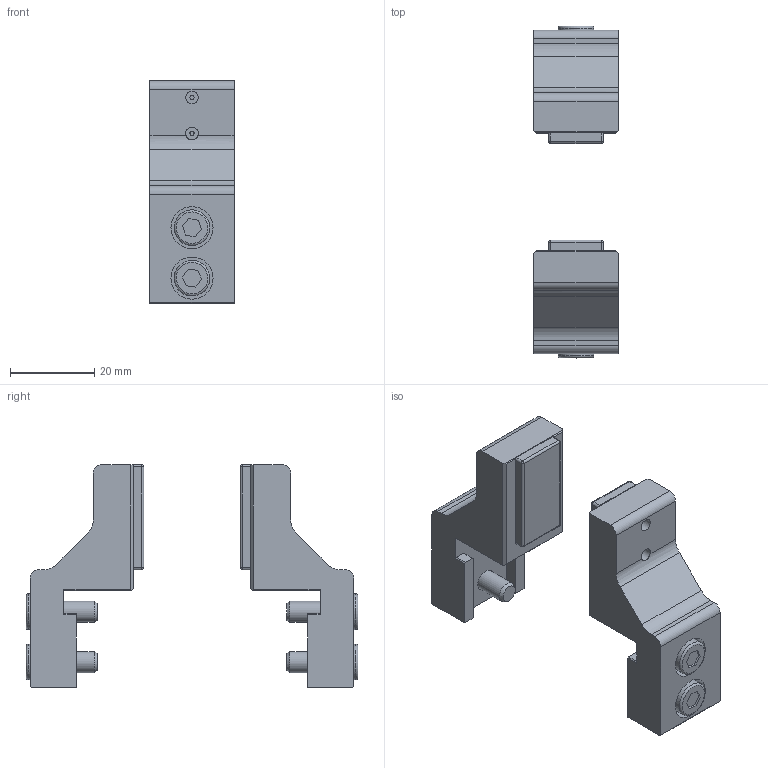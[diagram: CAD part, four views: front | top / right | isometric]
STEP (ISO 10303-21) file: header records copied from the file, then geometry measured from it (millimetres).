
FILE_DESCRIPTION(('STEP AP214'),'1');
FILE_NAME('CA.KB.25.CGP.stp','2018-09-26T13:54:13',(' '),(' '),'Spatial InterOp 3D',' ',' ');
FILE_SCHEMA(('AUTOMOTIVE_DESIGN { 1 0 10303 214 1 1 1 1 }'));
Length unit declared in the file: millimetre
Products named in the file (4): CA.KB.25.CGP; PAC.20.16P.03.V1; KB.25.CGP; V.TCE5x12
Assembly tree (8 placements, depth 2):
  CA.KB.25.CGP
    PAC.20.16P.03.V1  x2
    KB.25.CGP  x2
    V.TCE5x12  x4
Bounding box: 20 x 79 x 53 mm (x, y, z)
Volume: 26027.9 mm3; surface area: 13388.9 mm2
Topology: 8 solids, 8 shells, 222 faces, 518 edges, 332 vertices
Faces by surface type: plane 130, cylinder 58, cone 18, sphere 8, torus 8
Full cylindrical faces by diameter (mm): 1 x6, 2.96 x6, 3 x6, 5 x4, 5.2 x4, 8.5 x4, 10 x4
Entity records: 3438 total; most frequent: DIRECTION 463, CARTESIAN_POINT 446, ORIENTED_EDGE 376, EDGE_CURVE 188, AXIS2_PLACEMENT_3D 171, EDGE_LOOP 141, VERTEX_POINT 136, LINE 121
